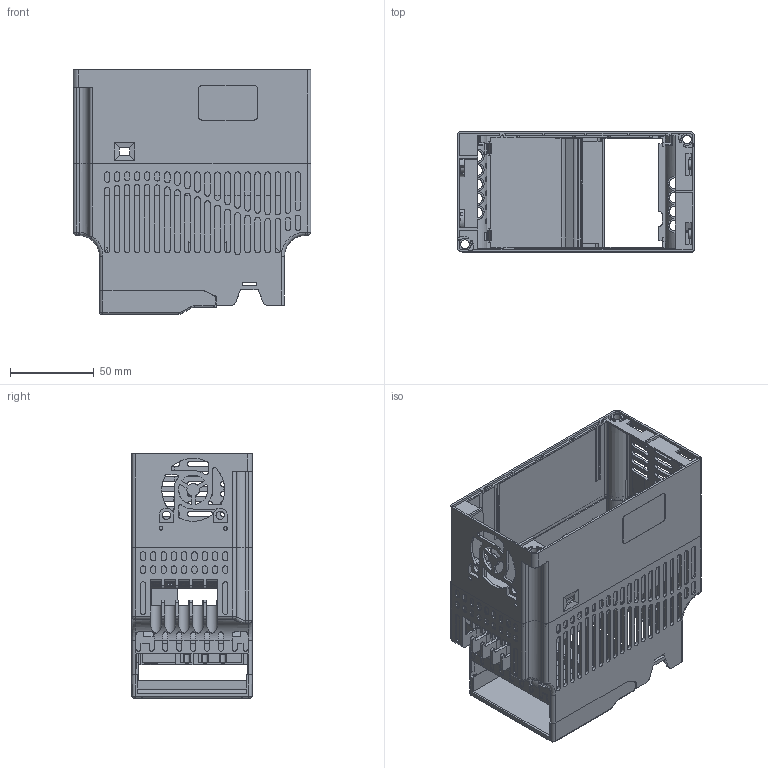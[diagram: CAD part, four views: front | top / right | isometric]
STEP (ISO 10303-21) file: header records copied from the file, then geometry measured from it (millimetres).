
FILE_DESCRIPTION((''),'2;1');
FILE_NAME('Z2000-2_2KW_S11__ASM','2019-02-25T',('PC-TR'),(''),'PRO/ENGINEER BY PARAMETRIC TECHNOLOGY CORPORATION, 2010280','PRO/ENGINEER BY PARAMETRIC TECHNOLOGY CORPORATION, 2010280','');
FILE_SCHEMA(('CONFIG_CONTROL_DESIGN'));
Products named in the file (1): Z2000-2_2KW_S11__ASM
Bounding box: 142 x 72 x 146.1 mm (x, y, z)
Volume: 64640.1 mm3; surface area: 141072.7 mm2
Topology: 1 solids, 8 shells, 2498 faces, 7384 edges, 4976 vertices
Faces by surface type: plane 1647, cylinder 664, extrusion 73, torus 40, cone 38, bspline 28, sphere 8
Entity records: 90526 total; most frequent: CARTESIAN_POINT 22812, ORIENTED_EDGE 14695, DIRECTION 13351, EDGE_CURVE 7378, VECTOR 5235, LINE 5162, VERTEX_POINT 4976, AXIS2_PLACEMENT_3D 4058
